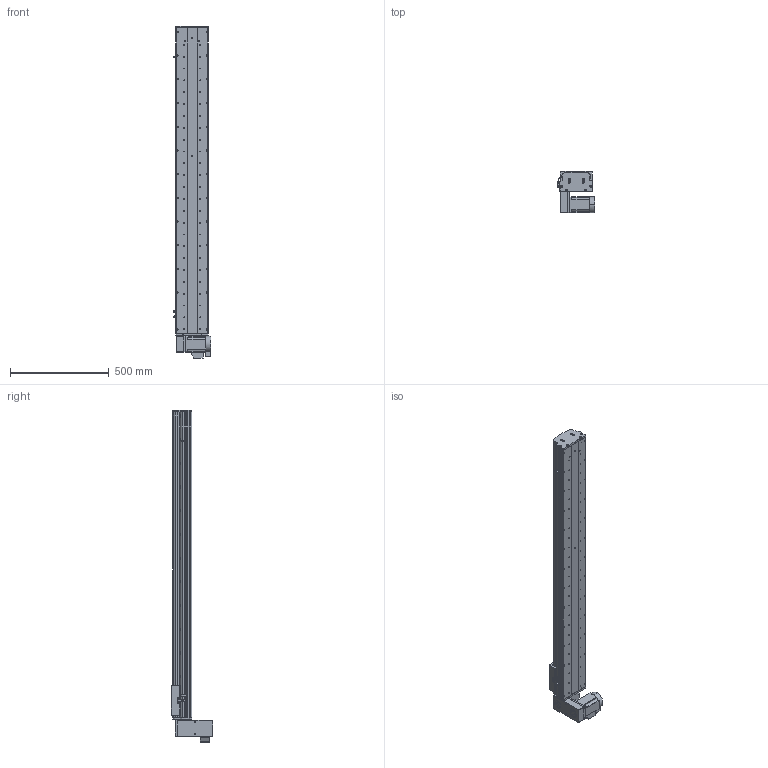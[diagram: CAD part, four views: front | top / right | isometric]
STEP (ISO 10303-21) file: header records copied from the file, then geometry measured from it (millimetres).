
FILE_DESCRIPTION (( 'STEP AP214' ), '1' );
FILE_NAME ('KSD165B-S1300-MLD-CM.STEP', '2017-10-16T07:24:51', ( '微软用户' ), ( '微软中国' ), 'SwSTEP 2.0', 'SolidWorks 2014', '' );
FILE_SCHEMA (( 'AUTOMOTIVE_DESIGN' ));
Length unit declared in the file: millimetre
Products named in the file (17): KSD165B-S1300-MLD-CM; 130宽模组保护罩上下左右折-同步带; 130宽模组马达安装板连板上下折丝杆同步带; HTPA26S5M250-A-H8 750W萇儂蚚; HTPA26S5M250-A-H8 400W萇儂蚚 ; 165宽马达安装板同步带左-改; KSD165模组-同步带防尘盖1-1300行程; KSD165模组同步带底板-1300行程; 拸秶雄ん750W侜督萇儂; U倰嫖萇假蚾璃; U倰嫖萇EEㄜSX672; 覜茼え68遵圉猾敕; KSD165模组-同步带-防撞垫2; KSD165模组同步带-防撞垫1; KSD165耀郪-ヶ傷啣1-肮祭湍; KSD165模组-后端板1-同步带; KSD165模组-同步带滑动座-最新版
Assembly tree (20 placements, depth 2):
  KSD165B-S1300-MLD-CM
    KSD165模组-同步带滑动座-最新版
    KSD165模组-后端板1-同步带
    KSD165耀郪-ヶ傷啣1-肮祭湍
    KSD165模组同步带-防撞垫1
    KSD165模组-同步带-防撞垫2
    覜茼え68遵圉猾敕
    U倰嫖萇EEㄜSX672  x3
    U倰嫖萇假蚾璃  x3
    拸秶雄ん750W侜督萇儂
    KSD165模组同步带底板-1300行程
    KSD165模组-同步带防尘盖1-1300行程
    165宽马达安装板同步带左-改
    HTPA26S5M250-A-H8 400W萇儂蚚 
    HTPA26S5M250-A-H8 750W萇儂蚚
    130宽模组马达安装板连板上下折丝杆同步带
    130宽模组保护罩上下左右折-同步带
Bounding box: 191.2 x 210 x 1681 mm (x, y, z)
Volume: 9272574.9 mm3; surface area: 2159548.4 mm2
Topology: 21 solids, 22 shells, 2019 faces, 5706 edges, 3728 vertices
Faces by surface type: cylinder 1313, plane 594, cone 112
Entity records: 66096 total; most frequent: CARTESIAN_POINT 13530, DIRECTION 10818, ORIENTED_EDGE 10072, EDGE_CURVE 5036, AXIS2_PLACEMENT_3D 4254, VERTEX_POINT 3320, CIRCLE 2432, VECTOR 2310
